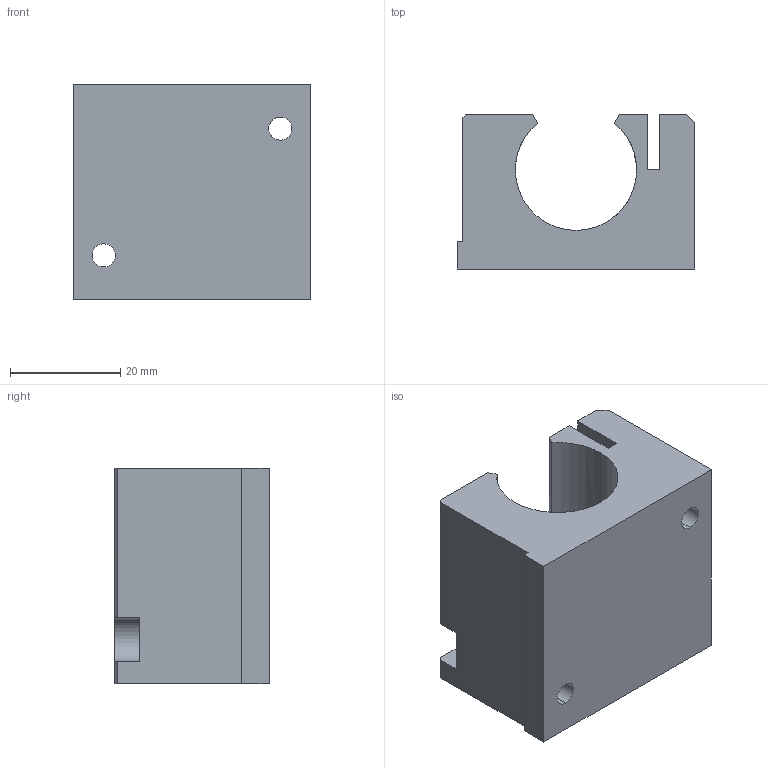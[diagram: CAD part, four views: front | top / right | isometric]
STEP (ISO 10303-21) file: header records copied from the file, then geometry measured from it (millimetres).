
FILE_DESCRIPTION (( 'STEP AP214' ), '1' );
FILE_NAME ('KGOE38-12.step', '2020-03-04T13:21:53', ( '' ), ( '' ), 'SwSTEP 2.0', 'SolidWorks 2019', '' );
FILE_SCHEMA (( 'AUTOMOTIVE_DESIGN' ));
Length unit declared in the file: millimetre
Products named in the file (1): KGOE38-12
Bounding box: 43 x 28 x 39 mm (x, y, z)
Volume: 28334.7 mm3; surface area: 10510.4 mm2
Topology: 1 solids, 1 shells, 54 faces, 160 edges, 105 vertices
Faces by surface type: plane 30, cylinder 21, cone 3
Entity records: 2076 total; most frequent: CARTESIAN_POINT 436, ORIENTED_EDGE 320, DIRECTION 306, EDGE_CURVE 160, LINE 108, VECTOR 108, VERTEX_POINT 105, AXIS2_PLACEMENT_3D 99
